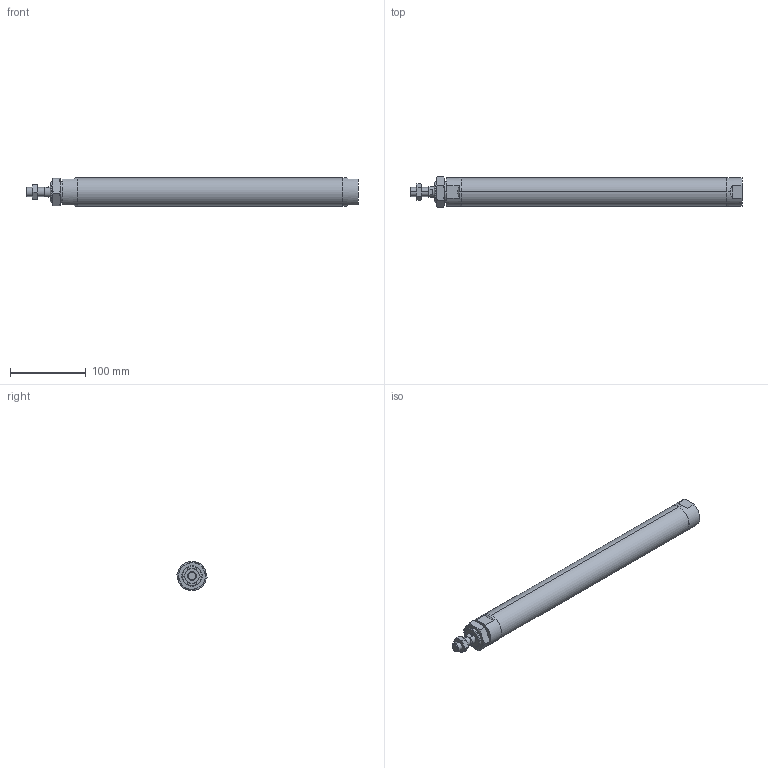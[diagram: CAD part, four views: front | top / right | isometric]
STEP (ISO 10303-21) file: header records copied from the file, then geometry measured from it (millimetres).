
FILE_DESCRIPTION (( 'STEP AP203' ), '1' );
FILE_NAME ('JGND2-32-300-N.STEP', '2016-08-04T03:03:45', ( '' ), ( '' ), 'SwSTEP 2.0', 'SolidWorks 2014', '' );
FILE_SCHEMA (( 'CONFIG_CONTROL_DESIGN' ));
Length unit declared in the file: millimetre
Products named in the file (4): J#2-32-300(P); JGND2-32-300-N
Assembly tree (3 placements, depth 2):
  JGND2-32-300-N
    J#2-32-300(P)
    (unnamed)
    (unnamed)
Bounding box: 437 x 40.33 x 38 mm (x, y, z)
Volume: 448890.7 mm3; surface area: 56153.2 mm2
Topology: 3 solids, 3 shells, 89 faces, 200 edges, 119 vertices
Faces by surface type: plane 32, torus 24, cylinder 20, cone 13
Entity records: 3321 total; most frequent: CARTESIAN_POINT 1017, DIRECTION 395, ORIENTED_EDGE 392, EDGE_CURVE 196, AXIS2_PLACEMENT_3D 167, VERTEX_POINT 119, EDGE_LOOP 99, FACE_OUTER_BOUND 89
